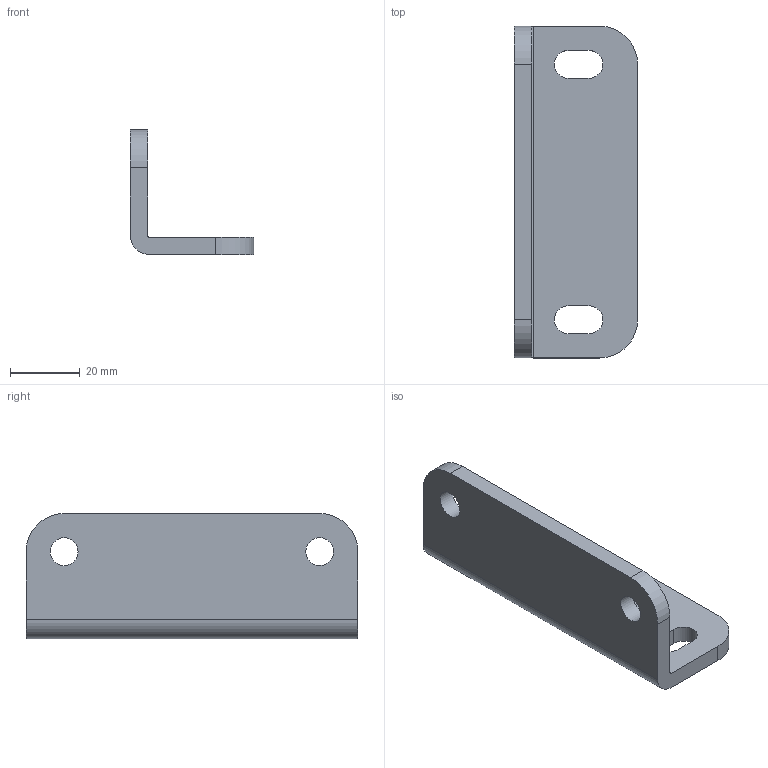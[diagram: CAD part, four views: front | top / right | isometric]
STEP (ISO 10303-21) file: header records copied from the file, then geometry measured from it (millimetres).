
FILE_DESCRIPTION(/* description */ (''),/* implementation_level */ '2;1');
FILE_NAME(/* name */ 'C:\Users\Nicholas Foo\Google Drive\Hari''s Mobility Solution\Design documents\P1\STEP\Plate_Mount_Bearings.stp',/* time_stamp */ '2017-12-19T00:06:10+08:00',/* author */ ('NicK Foo'),/* organization */ (''),/* preprocessor_version */ 'ST-DEVELOPER v16.13',/* originating_system */ 'Autodesk Inventor 2018',/* authorisation */ '');
FILE_SCHEMA (('AUTOMOTIVE_DESIGN { 1 0 10303 214 3 1 1 }'));
Length unit declared in the file: millimetre
Products named in the file (1): Plate_Mount_Bearings
Bounding box: 35.5 x 95.5 x 36 mm (x, y, z)
Volume: 29134.3 mm3; surface area: 13789.1 mm2
Topology: 1 solids, 1 shells, 24 faces, 68 edges, 46 vertices
Faces by surface type: cylinder 12, plane 12
Full cylindrical faces by diameter (mm): 8 x2
Entity records: 819 total; most frequent: DIRECTION 138, CARTESIAN_POINT 133, ORIENTED_EDGE 128, EDGE_CURVE 64, AXIS2_PLACEMENT_3D 49, VERTEX_POINT 44, LINE 40, VECTOR 40
